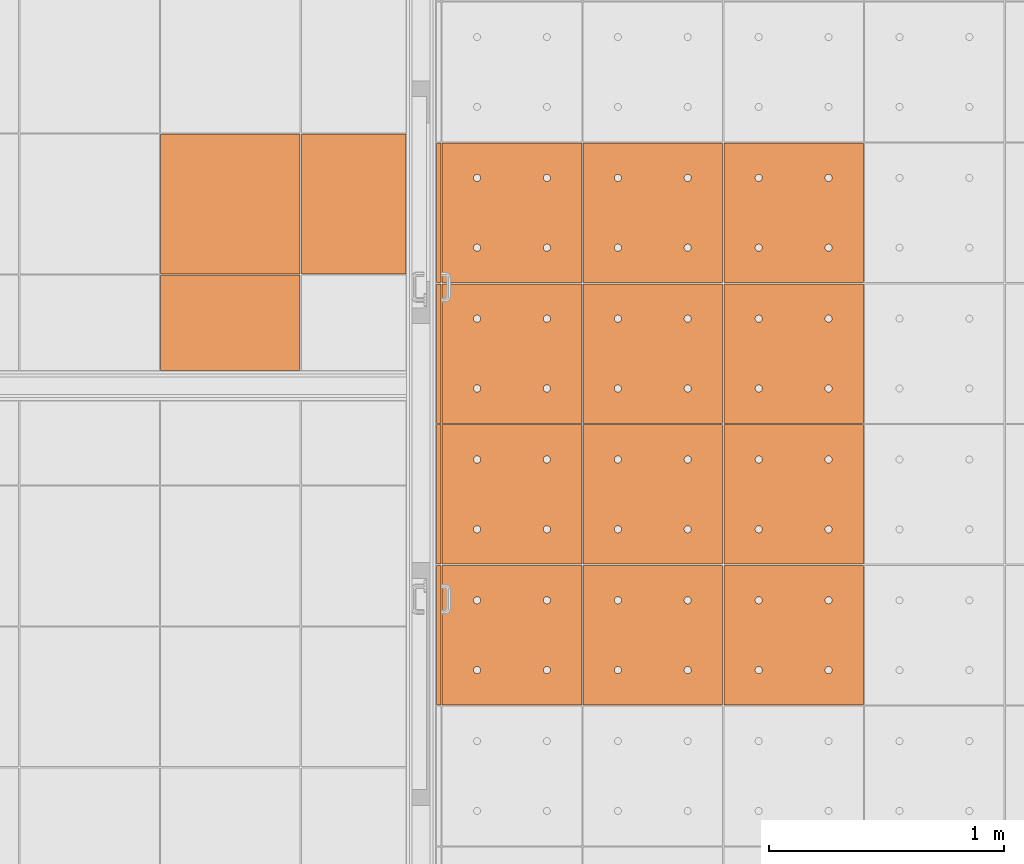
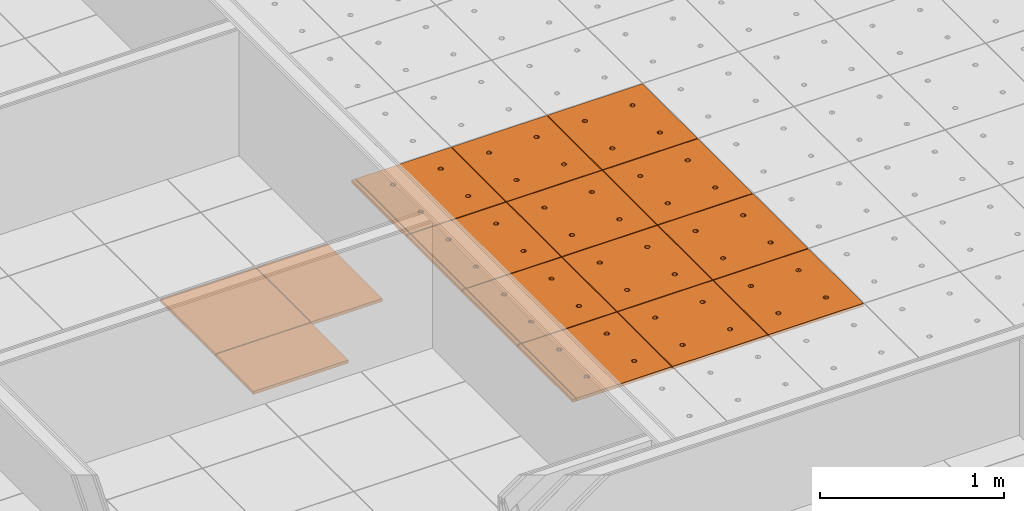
# One storey, part 286 of 338: 19 proxies, 2 elements without a shape of their own.
"""IFC2X3 building model written with IfcOpenShell, lengths in millimetres."""

from ifc_helpers import new_model, entity, si_unit, converted_unit, derived_unit, money_unit, direction, frame, origin_with_axes, place, context, subcontext, project, spatial, faceted_brep, source, transform, mapped, material, type_object, type_shapes, element, aggregate, save


model = new_model("IFC2X3")

# Units and contexts
model_context = context("Model", 3, precision=0.01, world=origin_with_axes(), true_north=direction((0.0, 1.0)))
plan_context = context("Plan", 3, precision=0.01, world=origin_with_axes(), true_north=direction((0.0, 1.0)))
body_context = subcontext(model_context, "Body", "Model", "MODEL_VIEW")
ifc_project = project(units=[si_unit("LENGTHUNIT", "METRE", prefix="MILLI"), si_unit("AREAUNIT", "SQUARE_METRE"), si_unit("VOLUMEUNIT", "CUBIC_METRE"), converted_unit("PLANEANGLEUNIT", "DEGREE", entity("IfcPlaneAngleMeasure", 0.0174532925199), si_unit("PLANEANGLEUNIT", "RADIAN"), dimensions=[0, 0, 0, 0, 0, 0, 0]), money_unit("EUR"), converted_unit("TIMEUNIT", "Year", entity("IfcTimeMeasure", 31556926.0), si_unit("TIMEUNIT", "SECOND"), dimensions=[0, 0, 1, 0, 0, 0, 0]), si_unit("MASSUNIT", "GRAM", prefix="KILO"), si_unit("THERMODYNAMICTEMPERATUREUNIT", "DEGREE_CELSIUS"), si_unit("LUMINOUSINTENSITYUNIT", "LUMEN"), si_unit("ENERGYUNIT", "JOULE", prefix="MEGA"), derived_unit("THERMALCONDUCTANCEUNIT", [(si_unit("POWERUNIT", "WATT"), 1), (si_unit("LENGTHUNIT", "METRE"), -1), (si_unit("THERMODYNAMICTEMPERATUREUNIT", "KELVIN"), -1)]), derived_unit("SPECIFICHEATCAPACITYUNIT", [(si_unit("ENERGYUNIT", "JOULE"), 1), (si_unit("MASSUNIT", "GRAM", prefix="KILO"), -1), (si_unit("THERMODYNAMICTEMPERATUREUNIT", "KELVIN"), -1)]), derived_unit("MASSDENSITYUNIT", [(si_unit("MASSUNIT", "GRAM", prefix="KILO"), 1), (si_unit("VOLUMEUNIT", "CUBIC_METRE"), -1)])], contexts=[model_context, plan_context])

# Site, building, storey
site_placement = place(None, origin_with_axes())
site = spatial("IfcSite", under=ifc_project, at=site_placement, Name="Fortuinstraat Woensdrecht", CompositionType="ELEMENT")
building_placement = place(site_placement, origin_with_axes())
building = spatial("IfcBuilding", under=site, at=building_placement, Name="IKC Fortuna", CompositionType="ELEMENT")
storey_placement = place(building_placement, origin_with_axes())
storey = spatial("IfcBuildingStorey", under=building, at=storey_placement, Name="00 begane grond", CompositionType="ELEMENT", Elevation=0.0)

# Covering, proxies
covering_type = type_object("IfcCoveringType", Name="Curtain Wall Type", PredefinedType="CEILING")
covering_1_placement = place(storey_placement, frame((22594.4446507, 31013.6071773, 2810.0), z_axis=(0.0, 0.0, 1.0), x_axis=(1.0, 0.0, 0.0)))
covering_1 = element("IfcCovering", 1, at=covering_1_placement, inside=storey, type_object=covering_type, Name="45_Plafondafwerking_P02", PredefinedType="CEILING")
ifc_material = material(Name="Gipsplaat")
building_element_proxy_type_1 = type_object("IfcBuildingElementProxyType", Name="Distinct Panel 600 x 600 x 20", PredefinedType="NOTDEFINED")
shared_shape_1 = source(origin_with_axes(), body_context, "Body", "Brep", [
    faceted_brep([(2.5000069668, 2.4999963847, -10.0), (597.499995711, 2.50000275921, -10.0), (597.499995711, 2.50000275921, 10.0), (2.5000069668, 2.4999963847, 10.0), (2.50000214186, 597.499967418, -10.0), (597.499990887, 597.499973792, -10.0), (597.499990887, 597.499973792, 10.0), (2.50000214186, 597.499967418, 10.0)], [[[0, 1, 2, 3]], [[0, 4, 5, 1]], [[1, 5, 6, 2]], [[3, 2, 6, 7]], [[4, 0, 3, 7]], [[5, 4, 7, 6]]]),
])
type_shapes(building_element_proxy_type_1, [shared_shape_1])
proxy_1_placement = place(covering_1_placement, frame((0.0, 506.204592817, 0.0), z_axis=(0.0, 0.0, 1.0), x_axis=(1.0, 0.0, 0.0)))
proxy_1 = element("IfcBuildingElementProxy", 2, at=proxy_1_placement, type_object=building_element_proxy_type_1, material=ifc_material, Name="__Panel-D", context=body_context, shape_type="MappedRepresentation", body=[
    mapped(shared_shape_1, transform((300.0, 300.0, 0.0), x_axis=(-1.0, 0.0, 0.0), y_axis=(0.0, -1.0, 0.0), z_axis=(0.0, 0.0, 1.0))),
])
building_element_proxy_type_2 = type_object("IfcBuildingElementProxyType", Name="Distinct Panel 450 x 600 x 20", PredefinedType="NOTDEFINED")
shared_shape_2 = source(origin_with_axes(), body_context, "Body", "Brep", [
    faceted_brep([(152.589639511, 2.5, -10.0), (597.5, 2.49999999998, -10.0), (597.5, 2.49999999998, 10.0), (152.589639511, 2.5, 10.0), (152.589639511, 597.5, -10.0), (597.5, 597.5, -10.0), (597.5, 597.5, 10.0), (152.589639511, 597.5, 10.0)], [[[0, 1, 2, 3]], [[0, 4, 5, 1]], [[1, 5, 6, 2]], [[3, 2, 6, 7]], [[4, 0, 3, 7]], [[5, 4, 7, 6]]]),
])
type_shapes(building_element_proxy_type_2, [shared_shape_2])
proxy_2_placement = place(covering_1_placement, frame((524.955179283, 506.204592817, 0.0), z_axis=(0.0, 0.0, 1.0), x_axis=(1.0, 0.0, 0.0)))
proxy_2 = element("IfcBuildingElementProxy", 3, at=proxy_2_placement, type_object=building_element_proxy_type_2, material=ifc_material, Name="__Panel-D", context=body_context, shape_type="MappedRepresentation", body=[
    mapped(shared_shape_2, transform((375.044820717, 300.0, 0.0), x_axis=(-1.0, 0.0, 0.0), y_axis=(0.0, -1.0, 0.0), z_axis=(0.0, 0.0, 1.0))),
])
building_element_proxy_type_3 = type_object("IfcBuildingElementProxyType", Name="Distinct Panel 600 x 412 x 20", PredefinedType="NOTDEFINED")
shared_shape_3 = source(origin_with_axes(), body_context, "Body", "Brep", [
    faceted_brep([(2.49999999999, 2.49999924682, -10.0), (597.5, 2.49999924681, -10.0), (597.5, 2.49999924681, 10.0), (2.49999999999, 2.49999924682, 10.0), (2.5, 409.909179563, -10.0), (597.5, 409.909188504, -10.0), (597.5, 409.909188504, 10.0), (2.5, 409.909179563, 10.0)], [[[0, 1, 2, 3]], [[0, 4, 5, 1]], [[1, 5, 6, 2]], [[3, 2, 6, 7]], [[4, 0, 3, 7]], [[5, 4, 7, 6]]]),
])
type_shapes(building_element_proxy_type_3, [shared_shape_3])
proxy_3_placement = place(covering_1_placement, origin_with_axes())
proxy_3 = element("IfcBuildingElementProxy", 4, at=proxy_3_placement, type_object=building_element_proxy_type_3, material=ifc_material, Name="__Panel-D", context=body_context, shape_type="MappedRepresentation", body=[
    mapped(shared_shape_3, transform((300.0, 206.204592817, 0.0), x_axis=(-1.0, 0.0, 0.0), y_axis=(0.0, -1.0, 0.0), z_axis=(0.0, 0.0, 1.0))),
])
aggregate(covering_1, [proxy_3, proxy_2, proxy_1])

covering_2_placement = place(storey_placement, frame((24394.3550152, 31482.3495284, 3210.0), z_axis=(0.0, 0.0, 1.0), x_axis=(1.0, 0.0, 0.0)))
covering_2 = element("IfcCovering", 5, at=covering_2_placement, inside=storey, type_object=covering_type, Name="45_Plafondafwerking_P01", PredefinedType="CEILING")
building_element_proxy_type_4 = type_object("IfcBuildingElementProxyType", Name="Main Panel 600 x 600 x 20", PredefinedType="NOTDEFINED")
shared_shape_4 = source(origin_with_axes(), body_context, "Body", "Brep", [
    faceted_brep([(2.49999999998, 2.49999999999, -10.0), (300.0, 2.49999999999, -10.0), (300.0, 2.49999999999, 10.0), (2.49999999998, 2.49999999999, 10.0), (2.49999999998, 300.0, -10.0), (2.49999999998, 597.5, -10.0), (300.0, 597.5, -10.0), (597.5, 597.5, -10.0), (597.5, 300.0, -10.0), (597.5, 2.49999999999, -10.0), (166.25, 450.06232995, -10.0), (165.79423259, 452.64711538, -10.0), (164.896546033, 455.11348892, -10.0), (163.58421608, 457.38651108, -10.0), (161.897117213, 459.39711721, -10.0), (159.886511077, 461.08421608, -10.0), (157.613488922, 462.39654603, -10.0), (155.147115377, 463.29423259, -10.0), (152.562329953, 463.75, -10.0), (149.937670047, 463.75, -10.0), (147.352884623, 463.29423259, -10.0), (144.886511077, 462.39654603, -10.0), (142.613488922, 461.08421608, -10.0), (140.602882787, 459.39711721, -10.0), (138.91578392, 457.38651108, -10.0), (137.603453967, 455.11348892, -10.0), (136.705767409, 452.64711538, -10.0), (136.25, 450.06232995, -10.0), (136.25, 448.75, -10.0), (136.25, 447.43767005, -10.0), (136.705767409, 444.85288462, -10.0), (137.603453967, 442.38651108, -10.0), (138.91578392, 440.11348892, -10.0), (140.602882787, 438.10288279, -10.0), (142.613488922, 436.41578392, -10.0), (144.886511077, 435.10345397, -10.0), (147.352884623, 434.20576741, -10.0), (149.937670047, 433.75, -10.0), (152.562329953, 433.75, -10.0), (155.147115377, 434.20576741, -10.0), (157.613488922, 435.10345397, -10.0), (159.886511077, 436.41578392, -10.0), (161.897117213, 438.10288279, -10.0), (163.58421608, 440.11348892, -10.0), (164.896546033, 442.38651108, -10.0), (165.79423259, 444.85288462, -10.0), (166.25, 447.43767005, -10.0), (463.75, 450.06232995, -10.0), (463.29423259, 452.64711538, -10.0), (462.396546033, 455.11348892, -10.0), (461.08421608, 457.38651108, -10.0), (459.397117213, 459.39711721, -10.0), (457.386511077, 461.08421608, -10.0), (455.113488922, 462.39654603, -10.0), (452.647115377, 463.29423259, -10.0), (450.062329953, 463.75, -10.0), (447.437670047, 463.75, -10.0), (444.852884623, 463.29423259, -10.0), (442.386511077, 462.39654603, -10.0), (440.113488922, 461.08421608, -10.0), (438.102882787, 459.39711721, -10.0), (436.41578392, 457.38651108, -10.0), (435.103453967, 455.11348892, -10.0), (434.205767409, 452.64711538, -10.0), (433.75, 450.06232995, -10.0), (433.75, 448.75, -10.0), (433.75, 447.43767005, -10.0), (434.205767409, 444.85288462, -10.0), (435.103453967, 442.38651108, -10.0), (436.41578392, 440.11348892, -10.0), (438.102882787, 438.10288279, -10.0), (440.113488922, 436.41578392, -10.0), (442.386511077, 435.10345397, -10.0), (444.852884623, 434.20576741, -10.0), (447.437670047, 433.75, -10.0), (450.062329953, 433.75, -10.0), (452.647115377, 434.20576741, -10.0), (455.113488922, 435.10345397, -10.0), (457.386511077, 436.41578392, -10.0), (459.397117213, 438.10288279, -10.0), (461.08421608, 440.11348892, -10.0), (462.396546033, 442.38651108, -10.0), (463.29423259, 444.85288462, -10.0), (463.75, 447.43767005, -10.0), (463.75, 152.56232995, -10.0), (463.29423259, 155.14711538, -10.0), (462.396546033, 157.61348892, -10.0), (461.08421608, 159.88651108, -10.0), (459.397117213, 161.89711721, -10.0), (457.386511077, 163.58421608, -10.0), (455.113488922, 164.89654603, -10.0), (452.647115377, 165.79423259, -10.0), (450.062329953, 166.25, -10.0), (447.437670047, 166.25, -10.0), (444.852884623, 165.79423259, -10.0), (442.386511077, 164.89654603, -10.0), (440.113488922, 163.58421608, -10.0), (438.102882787, 161.89711721, -10.0), (436.41578392, 159.88651108, -10.0), (435.103453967, 157.61348892, -10.0), (434.205767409, 155.14711538, -10.0), (433.75, 152.56232995, -10.0), (433.75, 151.25, -10.0), (433.75, 149.93767005, -10.0), (434.205767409, 147.35288462, -10.0), (435.103453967, 144.88651108, -10.0), (436.41578392, 142.61348892, -10.0), (438.102882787, 140.60288279, -10.0), (440.113488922, 138.91578392, -10.0), (442.386511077, 137.60345397, -10.0), (444.852884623, 136.70576741, -10.0), (447.437670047, 136.25, -10.0), (450.062329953, 136.25, -10.0), (452.647115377, 136.70576741, -10.0), (455.113488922, 137.60345397, -10.0), (457.386511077, 138.91578392, -10.0), (459.397117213, 140.60288279, -10.0), (461.08421608, 142.61348892, -10.0), (462.396546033, 144.88651108, -10.0), (463.29423259, 147.35288462, -10.0), (463.75, 149.93767005, -10.0), (166.25, 152.56232995, -10.0), (165.79423259, 155.14711538, -10.0), (164.896546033, 157.61348892, -10.0), (163.58421608, 159.88651108, -10.0), (161.897117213, 161.89711721, -10.0), (159.886511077, 163.58421608, -10.0), (157.613488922, 164.89654603, -10.0), (155.147115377, 165.79423259, -10.0), (152.562329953, 166.25, -10.0), (149.937670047, 166.25, -10.0), (147.352884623, 165.79423259, -10.0), (144.886511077, 164.89654603, -10.0), (142.613488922, 163.58421608, -10.0), (140.602882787, 161.89711721, -10.0), (138.91578392, 159.88651108, -10.0), (137.603453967, 157.61348892, -10.0), (136.705767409, 155.14711538, -10.0), (136.25, 152.56232995, -10.0), (136.25, 151.25, -10.0), (136.25, 149.93767005, -10.0), (136.705767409, 147.35288462, -10.0), (137.603453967, 144.88651108, -10.0), (138.91578392, 142.61348892, -10.0), (140.602882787, 140.60288279, -10.0), (142.613488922, 138.91578392, -10.0), (144.886511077, 137.60345397, -10.0), (147.352884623, 136.70576741, -10.0), (149.937670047, 136.25, -10.0), (152.562329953, 136.25, -10.0), (155.147115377, 136.70576741, -10.0), (157.613488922, 137.60345397, -10.0), (159.886511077, 138.91578392, -10.0), (161.897117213, 140.60288279, -10.0), (163.58421608, 142.61348892, -10.0), (164.896546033, 144.88651108, -10.0), (165.79423259, 147.35288462, -10.0), (166.25, 149.93767005, -10.0), (597.5, 2.49999999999, 10.0), (597.5, 300.0, 10.0), (597.5, 597.5, 10.0), (300.0, 597.5, 10.0), (2.49999999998, 597.5, 10.0), (2.49999999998, 300.0, 10.0), (166.25, 450.06232995, 10.0), (166.25, 447.43767005, 10.0), (165.79423259, 444.85288462, 10.0), (164.896546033, 442.38651108, 10.0), (163.58421608, 440.11348892, 10.0), (161.897117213, 438.10288279, 10.0), (159.886511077, 436.41578392, 10.0), (157.613488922, 435.10345397, 10.0), (155.147115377, 434.20576741, 10.0), (152.562329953, 433.75, 10.0), (149.937670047, 433.75, 10.0), (147.352884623, 434.20576741, 10.0), (144.886511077, 435.10345397, 10.0), (142.613488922, 436.41578392, 10.0), (140.602882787, 438.10288279, 10.0), (138.91578392, 440.11348892, 10.0), (137.603453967, 442.38651108, 10.0), (136.705767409, 444.85288462, 10.0), (136.25, 447.43767005, 10.0), (136.25, 448.75, 10.0), (136.25, 450.06232995, 10.0), (136.705767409, 452.64711538, 10.0), (137.603453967, 455.11348892, 10.0), (138.91578392, 457.38651108, 10.0), (140.602882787, 459.39711721, 10.0), (142.613488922, 461.08421608, 10.0), (144.886511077, 462.39654603, 10.0), (147.352884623, 463.29423259, 10.0), (149.937670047, 463.75, 10.0), (152.562329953, 463.75, 10.0), (155.147115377, 463.29423259, 10.0), (157.613488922, 462.39654603, 10.0), (159.886511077, 461.08421608, 10.0), (161.897117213, 459.39711721, 10.0), (163.58421608, 457.38651108, 10.0), (164.896546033, 455.11348892, 10.0), (165.79423259, 452.64711538, 10.0), (463.75, 450.06232995, 10.0), (463.75, 447.43767005, 10.0), (463.29423259, 444.85288462, 10.0), (462.396546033, 442.38651108, 10.0), (461.08421608, 440.11348892, 10.0), (459.397117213, 438.10288279, 10.0), (457.386511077, 436.41578392, 10.0), (455.113488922, 435.10345397, 10.0), (452.647115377, 434.20576741, 10.0), (450.062329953, 433.75, 10.0), (447.437670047, 433.75, 10.0), (444.852884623, 434.20576741, 10.0), (442.386511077, 435.10345397, 10.0), (440.113488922, 436.41578392, 10.0), (438.102882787, 438.10288279, 10.0), (436.41578392, 440.11348892, 10.0), (435.103453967, 442.38651108, 10.0), (434.205767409, 444.85288462, 10.0), (433.75, 447.43767005, 10.0), (433.75, 448.75, 10.0), (433.75, 450.06232995, 10.0), (434.205767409, 452.64711538, 10.0), (435.103453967, 455.11348892, 10.0), (436.41578392, 457.38651108, 10.0), (438.102882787, 459.39711721, 10.0), (440.113488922, 461.08421608, 10.0), (442.386511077, 462.39654603, 10.0), (444.852884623, 463.29423259, 10.0), (447.437670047, 463.75, 10.0), (450.062329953, 463.75, 10.0), (452.647115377, 463.29423259, 10.0), (455.113488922, 462.39654603, 10.0), (457.386511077, 461.08421608, 10.0), (459.397117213, 459.39711721, 10.0), (461.08421608, 457.38651108, 10.0), (462.396546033, 455.11348892, 10.0), (463.29423259, 452.64711538, 10.0), (463.75, 152.56232995, 10.0), (463.75, 149.93767005, 10.0), (463.29423259, 147.35288462, 10.0), (462.396546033, 144.88651108, 10.0), (461.08421608, 142.61348892, 10.0), (459.397117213, 140.60288279, 10.0), (457.386511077, 138.91578392, 10.0), (455.113488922, 137.60345397, 10.0), (452.647115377, 136.70576741, 10.0), (450.062329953, 136.25, 10.0), (447.437670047, 136.25, 10.0), (444.852884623, 136.70576741, 10.0), (442.386511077, 137.60345397, 10.0), (440.113488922, 138.91578392, 10.0), (438.102882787, 140.60288279, 10.0), (436.41578392, 142.61348892, 10.0), (435.103453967, 144.88651108, 10.0), (434.205767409, 147.35288462, 10.0), (433.75, 149.93767005, 10.0), (433.75, 151.25, 10.0), (433.75, 152.56232995, 10.0), (434.205767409, 155.14711538, 10.0), (435.103453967, 157.61348892, 10.0), (436.41578392, 159.88651108, 10.0), (438.102882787, 161.89711721, 10.0), (440.113488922, 163.58421608, 10.0), (442.386511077, 164.89654603, 10.0), (444.852884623, 165.79423259, 10.0), (447.437670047, 166.25, 10.0), (450.062329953, 166.25, 10.0), (452.647115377, 165.79423259, 10.0), (455.113488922, 164.89654603, 10.0), (457.386511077, 163.58421608, 10.0), (459.397117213, 161.89711721, 10.0), (461.08421608, 159.88651108, 10.0), (462.396546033, 157.61348892, 10.0), (463.29423259, 155.14711538, 10.0), (166.25, 152.56232995, 10.0), (166.25, 149.93767005, 10.0), (165.79423259, 147.35288462, 10.0), (164.896546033, 144.88651108, 10.0), (163.58421608, 142.61348892, 10.0), (161.897117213, 140.60288279, 10.0), (159.886511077, 138.91578392, 10.0), (157.613488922, 137.60345397, 10.0), (155.147115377, 136.70576741, 10.0), (152.562329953, 136.25, 10.0), (149.937670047, 136.25, 10.0), (147.352884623, 136.70576741, 10.0), (144.886511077, 137.60345397, 10.0), (142.613488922, 138.91578392, 10.0), (140.602882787, 140.60288279, 10.0), (138.91578392, 142.61348892, 10.0), (137.603453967, 144.88651108, 10.0), (136.705767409, 147.35288462, 10.0), (136.25, 149.93767005, 10.0), (136.25, 151.25, 10.0), (136.25, 152.56232995, 10.0), (136.705767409, 155.14711538, 10.0), (137.603453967, 157.61348892, 10.0), (138.91578392, 159.88651108, 10.0), (140.602882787, 161.89711721, 10.0), (142.613488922, 163.58421608, 10.0), (144.886511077, 164.89654603, 10.0), (147.352884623, 165.79423259, 10.0), (149.937670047, 166.25, 10.0), (152.562329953, 166.25, 10.0), (155.147115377, 165.79423259, 10.0), (157.613488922, 164.89654603, 10.0), (159.886511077, 163.58421608, 10.0), (161.897117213, 161.89711721, 10.0), (163.58421608, 159.88651108, 10.0), (164.896546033, 157.61348892, 10.0), (165.79423259, 155.14711538, 10.0)], [[[0, 1, 2, 3]], [[0, 4, 5, 6, 7, 8, 9, 1], [10, 11, 12, 13, 14, 15, 16, 17, 18, 19, 20, 21, 22, 23, 24, 25, 26, 27, 28, 29, 30, 31, 32, 33, 34, 35, 36, 37, 38, 39, 40, 41, 42, 43, 44, 45, 46], [47, 48, 49, 50, 51, 52, 53, 54, 55, 56, 57, 58, 59, 60, 61, 62, 63, 64, 65, 66, 67, 68, 69, 70, 71, 72, 73, 74, 75, 76, 77, 78, 79, 80, 81, 82, 83], [84, 85, 86, 87, 88, 89, 90, 91, 92, 93, 94, 95, 96, 97, 98, 99, 100, 101, 102, 103, 104, 105, 106, 107, 108, 109, 110, 111, 112, 113, 114, 115, 116, 117, 118, 119, 120], [121, 122, 123, 124, 125, 126, 127, 128, 129, 130, 131, 132, 133, 134, 135, 136, 137, 138, 139, 140, 141, 142, 143, 144, 145, 146, 147, 148, 149, 150, 151, 152, 153, 154, 155, 156, 157]], [[1, 9, 158, 2]], [[3, 2, 158, 159, 160, 161, 162, 163], [164, 165, 166, 167, 168, 169, 170, 171, 172, 173, 174, 175, 176, 177, 178, 179, 180, 181, 182, 183, 184, 185, 186, 187, 188, 189, 190, 191, 192, 193, 194, 195, 196, 197, 198, 199, 200], [201, 202, 203, 204, 205, 206, 207, 208, 209, 210, 211, 212, 213, 214, 215, 216, 217, 218, 219, 220, 221, 222, 223, 224, 225, 226, 227, 228, 229, 230, 231, 232, 233, 234, 235, 236, 237], [238, 239, 240, 241, 242, 243, 244, 245, 246, 247, 248, 249, 250, 251, 252, 253, 254, 255, 256, 257, 258, 259, 260, 261, 262, 263, 264, 265, 266, 267, 268, 269, 270, 271, 272, 273, 274], [275, 276, 277, 278, 279, 280, 281, 282, 283, 284, 285, 286, 287, 288, 289, 290, 291, 292, 293, 294, 295, 296, 297, 298, 299, 300, 301, 302, 303, 304, 305, 306, 307, 308, 309, 310, 311]], [[4, 0, 3, 163]], [[5, 4, 163, 162]], [[6, 5, 162, 161]], [[7, 6, 161, 160]], [[8, 7, 160, 159]], [[9, 8, 159, 158]], [[11, 10, 164, 200]], [[12, 11, 200, 199]], [[13, 12, 199, 198]], [[14, 13, 198, 197]], [[15, 14, 197, 196]], [[16, 15, 196, 195]], [[17, 16, 195, 194]], [[18, 17, 194, 193]], [[19, 18, 193, 192]], [[20, 19, 192, 191]], [[21, 20, 191, 190]], [[22, 21, 190, 189]], [[23, 22, 189, 188]], [[24, 23, 188, 187]], [[25, 24, 187, 186]], [[26, 25, 186, 185]], [[27, 26, 185, 184]], [[28, 27, 184, 183]], [[29, 28, 183, 182]], [[30, 29, 182, 181]], [[31, 30, 181, 180]], [[32, 31, 180, 179]], [[33, 32, 179, 178]], [[34, 33, 178, 177]], [[35, 34, 177, 176]], [[36, 35, 176, 175]], [[37, 36, 175, 174]], [[38, 37, 174, 173]], [[39, 38, 173, 172]], [[40, 39, 172, 171]], [[41, 40, 171, 170]], [[42, 41, 170, 169]], [[43, 42, 169, 168]], [[44, 43, 168, 167]], [[45, 44, 167, 166]], [[46, 45, 166, 165]], [[10, 46, 165, 164]], [[48, 47, 201, 237]], [[49, 48, 237, 236]], [[50, 49, 236, 235]], [[51, 50, 235, 234]], [[52, 51, 234, 233]], [[53, 52, 233, 232]], [[54, 53, 232, 231]], [[55, 54, 231, 230]], [[56, 55, 230, 229]], [[57, 56, 229, 228]], [[58, 57, 228, 227]], [[59, 58, 227, 226]], [[60, 59, 226, 225]], [[61, 60, 225, 224]], [[62, 61, 224, 223]], [[63, 62, 223, 222]], [[64, 63, 222, 221]], [[65, 64, 221, 220]], [[66, 65, 220, 219]], [[67, 66, 219, 218]], [[68, 67, 218, 217]], [[69, 68, 217, 216]], [[70, 69, 216, 215]], [[71, 70, 215, 214]], [[72, 71, 214, 213]], [[73, 72, 213, 212]], [[74, 73, 212, 211]], [[75, 74, 211, 210]], [[76, 75, 210, 209]], [[77, 76, 209, 208]], [[78, 77, 208, 207]], [[79, 78, 207, 206]], [[80, 79, 206, 205]], [[81, 80, 205, 204]], [[82, 81, 204, 203]], [[83, 82, 203, 202]], [[47, 83, 202, 201]], [[85, 84, 238, 274]], [[86, 85, 274, 273]], [[87, 86, 273, 272]], [[88, 87, 272, 271]], [[89, 88, 271, 270]], [[90, 89, 270, 269]], [[91, 90, 269, 268]], [[92, 91, 268, 267]], [[93, 92, 267, 266]], [[94, 93, 266, 265]], [[95, 94, 265, 264]], [[96, 95, 264, 263]], [[97, 96, 263, 262]], [[98, 97, 262, 261]], [[99, 98, 261, 260]], [[100, 99, 260, 259]], [[101, 100, 259, 258]], [[102, 101, 258, 257]], [[103, 102, 257, 256]], [[104, 103, 256, 255]], [[105, 104, 255, 254]], [[106, 105, 254, 253]], [[107, 106, 253, 252]], [[108, 107, 252, 251]], [[109, 108, 251, 250]], [[110, 109, 250, 249]], [[111, 110, 249, 248]], [[112, 111, 248, 247]], [[113, 112, 247, 246]], [[114, 113, 246, 245]], [[115, 114, 245, 244]], [[116, 115, 244, 243]], [[117, 116, 243, 242]], [[118, 117, 242, 241]], [[119, 118, 241, 240]], [[120, 119, 240, 239]], [[84, 120, 239, 238]], [[122, 121, 275, 311]], [[123, 122, 311, 310]], [[124, 123, 310, 309]], [[125, 124, 309, 308]], [[126, 125, 308, 307]], [[127, 126, 307, 306]], [[128, 127, 306, 305]], [[129, 128, 305, 304]], [[130, 129, 304, 303]], [[131, 130, 303, 302]], [[132, 131, 302, 301]], [[133, 132, 301, 300]], [[134, 133, 300, 299]], [[135, 134, 299, 298]], [[136, 135, 298, 297]], [[137, 136, 297, 296]], [[138, 137, 296, 295]], [[139, 138, 295, 294]], [[140, 139, 294, 293]], [[141, 140, 293, 292]], [[142, 141, 292, 291]], [[143, 142, 291, 290]], [[144, 143, 290, 289]], [[145, 144, 289, 288]], [[146, 145, 288, 287]], [[147, 146, 287, 286]], [[148, 147, 286, 285]], [[149, 148, 285, 284]], [[150, 149, 284, 283]], [[151, 150, 283, 282]], [[152, 151, 282, 281]], [[153, 152, 281, 280]], [[154, 153, 280, 279]], [[155, 154, 279, 278]], [[156, 155, 278, 277]], [[157, 156, 277, 276]], [[121, 157, 276, 275]]]),
])
type_shapes(building_element_proxy_type_4, [shared_shape_4])
proxy_4_placement = place(covering_2_placement, frame((0.0, 0.0, 1.46105350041e-10), z_axis=(0.0, 0.0, 1.0), x_axis=(1.0, 0.0, 0.0)))
proxy_4 = element("IfcBuildingElementProxy", 6, at=proxy_4_placement, type_object=building_element_proxy_type_4, material=ifc_material, Name="__600x600 Rockfon Krios", context=body_context, shape_type="MappedRepresentation", body=[
    mapped(shared_shape_4, transform((300.0, 300.0, 0.0), x_axis=(-1.0, 0.0, 0.0), y_axis=(0.0, -1.0, 0.0), z_axis=(0.0, 0.0, 1.0))),
])
proxy_5_placement = place(covering_2_placement, frame((600.0, -1800.0, 1.26121335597e-10), z_axis=(0.0, 0.0, 1.0), x_axis=(1.0, 0.0, 0.0)))
proxy_5 = element("IfcBuildingElementProxy", 7, at=proxy_5_placement, type_object=building_element_proxy_type_4, material=ifc_material, Name="__600x637 Rockfon Krios", context=body_context, shape_type="MappedRepresentation", body=[
    mapped(shared_shape_4, transform((300.0, 300.0, 0.0), x_axis=(-1.0, 0.0, 0.0), y_axis=(0.0, -1.0, 0.0), z_axis=(0.0, 0.0, 1.0))),
])
proxy_6_placement = place(covering_2_placement, frame((600.0, -1200.0, 1.26121335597e-10), z_axis=(0.0, 0.0, 1.0), x_axis=(1.0, 0.0, 0.0)))
proxy_6 = element("IfcBuildingElementProxy", 8, at=proxy_6_placement, type_object=building_element_proxy_type_4, material=ifc_material, Name="__600x641 Rockfon Krios", context=body_context, shape_type="MappedRepresentation", body=[
    mapped(shared_shape_4, transform((300.0, 300.0, 0.0), x_axis=(-1.0, 0.0, 0.0), y_axis=(0.0, -1.0, 0.0), z_axis=(0.0, 0.0, 1.0))),
])
proxy_7_placement = place(covering_2_placement, frame((600.0, -600.0, 1.26121335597e-10), z_axis=(0.0, 0.0, 1.0), x_axis=(1.0, 0.0, 0.0)))
proxy_7 = element("IfcBuildingElementProxy", 9, at=proxy_7_placement, type_object=building_element_proxy_type_4, material=ifc_material, Name="__600x643 Rockfon Krios", context=body_context, shape_type="MappedRepresentation", body=[
    mapped(shared_shape_4, transform((300.0, 300.0, 0.0), x_axis=(-1.0, 0.0, 0.0), y_axis=(0.0, -1.0, 0.0), z_axis=(0.0, 0.0, 1.0))),
])
proxy_8_placement = place(covering_2_placement, frame((-600.0, 0.0, 1.65645275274e-10), z_axis=(0.0, 0.0, 1.0), x_axis=(1.0, 0.0, 0.0)))
proxy_8 = element("IfcBuildingElementProxy", 10, at=proxy_8_placement, type_object=building_element_proxy_type_4, material=ifc_material, Name="__600x645 Rockfon Krios", context=body_context, shape_type="MappedRepresentation", body=[
    mapped(shared_shape_4, transform((300.0, 300.0, 0.0), x_axis=(-1.0, 0.0, 0.0), y_axis=(0.0, -1.0, 0.0), z_axis=(0.0, 0.0, 1.0))),
])
proxy_9_placement = place(covering_2_placement, frame((600.0, 0.0, 1.26121335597e-10), z_axis=(0.0, 0.0, 1.0), x_axis=(1.0, 0.0, 0.0)))
proxy_9 = element("IfcBuildingElementProxy", 11, at=proxy_9_placement, type_object=building_element_proxy_type_4, material=ifc_material, Name="__600x646 Rockfon Krios", context=body_context, shape_type="MappedRepresentation", body=[
    mapped(shared_shape_4, transform((300.0, 300.0, 0.0), x_axis=(-1.0, 0.0, 0.0), y_axis=(0.0, -1.0, 0.0), z_axis=(0.0, 0.0, 1.0))),
])
proxy_10_placement = place(covering_2_placement, frame((-600.0, -1200.0, 1.65645275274e-10), z_axis=(0.0, 0.0, 1.0), x_axis=(1.0, 0.0, 0.0)))
proxy_10 = element("IfcBuildingElementProxy", 12, at=proxy_10_placement, type_object=building_element_proxy_type_4, material=ifc_material, Name="__600x650 Rockfon Krios", context=body_context, shape_type="MappedRepresentation", body=[
    mapped(shared_shape_4, transform((300.0, 300.0, 0.0), x_axis=(-1.0, 0.0, 0.0), y_axis=(0.0, -1.0, 0.0), z_axis=(0.0, 0.0, 1.0))),
])
proxy_11_placement = place(covering_2_placement, frame((-600.0, -600.0, 1.65645275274e-10), z_axis=(0.0, 0.0, 1.0), x_axis=(1.0, 0.0, 0.0)))
proxy_11 = element("IfcBuildingElementProxy", 13, at=proxy_11_placement, type_object=building_element_proxy_type_4, material=ifc_material, Name="__600x653 Rockfon Krios", context=body_context, shape_type="MappedRepresentation", body=[
    mapped(shared_shape_4, transform((300.0, 300.0, 0.0), x_axis=(-1.0, 0.0, 0.0), y_axis=(0.0, -1.0, 0.0), z_axis=(0.0, 0.0, 1.0))),
])
proxy_12_placement = place(covering_2_placement, frame((-600.0, -1800.0, 1.65645275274e-10), z_axis=(0.0, 0.0, 1.0), x_axis=(1.0, 0.0, 0.0)))
proxy_12 = element("IfcBuildingElementProxy", 14, at=proxy_12_placement, type_object=building_element_proxy_type_4, material=ifc_material, Name="__600x654 Rockfon Krios", context=body_context, shape_type="MappedRepresentation", body=[
    mapped(shared_shape_4, transform((300.0, 300.0, 0.0), x_axis=(-1.0, 0.0, 0.0), y_axis=(0.0, -1.0, 0.0), z_axis=(0.0, 0.0, 1.0))),
])
proxy_13_placement = place(covering_2_placement, frame((0.0, -1800.0, 1.46105350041e-10), z_axis=(0.0, 0.0, 1.0), x_axis=(1.0, 0.0, 0.0)))
proxy_13 = element("IfcBuildingElementProxy", 15, at=proxy_13_placement, type_object=building_element_proxy_type_4, material=ifc_material, Name="__600x669 Rockfon Krios", context=body_context, shape_type="MappedRepresentation", body=[
    mapped(shared_shape_4, transform((300.0, 300.0, 0.0), x_axis=(-1.0, 0.0, 0.0), y_axis=(0.0, -1.0, 0.0), z_axis=(0.0, 0.0, 1.0))),
])
proxy_14_placement = place(covering_2_placement, frame((0.0, -1200.0, 1.46105350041e-10), z_axis=(0.0, 0.0, 1.0), x_axis=(1.0, 0.0, 0.0)))
proxy_14 = element("IfcBuildingElementProxy", 16, at=proxy_14_placement, type_object=building_element_proxy_type_4, material=ifc_material, Name="__600x670 Rockfon Krios", context=body_context, shape_type="MappedRepresentation", body=[
    mapped(shared_shape_4, transform((300.0, 300.0, 0.0), x_axis=(-1.0, 0.0, 0.0), y_axis=(0.0, -1.0, 0.0), z_axis=(0.0, 0.0, 1.0))),
])
proxy_15_placement = place(covering_2_placement, frame((0.0, -600.0, 1.46105350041e-10), z_axis=(0.0, 0.0, 1.0), x_axis=(1.0, 0.0, 0.0)))
proxy_15 = element("IfcBuildingElementProxy", 17, at=proxy_15_placement, type_object=building_element_proxy_type_4, material=ifc_material, Name="__600x671 Rockfon Krios", context=body_context, shape_type="MappedRepresentation", body=[
    mapped(shared_shape_4, transform((300.0, 300.0, 0.0), x_axis=(-1.0, 0.0, 0.0), y_axis=(0.0, -1.0, 0.0), z_axis=(0.0, 0.0, 1.0))),
])
building_element_proxy_type_5 = type_object("IfcBuildingElementProxyType", Name="25 x 600 x 20", PredefinedType="NOTDEFINED")
shared_shape_5 = source(origin_with_axes(), body_context, "Body", "Brep", [
    faceted_brep([(2.49999895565, 2.5, -10.0), (22.5000615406, 2.5, -10.0), (22.5000615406, 2.5, 10.0), (2.49999895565, 2.5, 10.0), (2.49999895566, 597.5, -10.0), (22.5000615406, 597.5, -10.0), (22.5000615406, 597.5, 10.0), (2.49999895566, 597.5, 10.0)], [[[0, 1, 2, 3]], [[0, 4, 5, 1]], [[1, 5, 6, 2]], [[3, 2, 6, 7]], [[4, 0, 3, 7]], [[5, 4, 7, 6]]]),
])
type_shapes(building_element_proxy_type_5, [shared_shape_5])
proxy_16_placement = place(covering_2_placement, frame((-912.50003077, -600.0, 1.75859327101e-10), z_axis=(0.0, 0.0, 1.0), x_axis=(1.0, 0.0, 0.0)))
proxy_16 = element("IfcBuildingElementProxy", 18, at=proxy_16_placement, type_object=building_element_proxy_type_5, material=ifc_material, Name="__600x708 Rockfon Krios", context=body_context, shape_type="MappedRepresentation", body=[
    mapped(shared_shape_5, transform((12.5000307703, 300.0, 0.0), x_axis=(-1.0, 0.0, 0.0), y_axis=(0.0, -1.0, 0.0), z_axis=(0.0, 0.0, 1.0))),
])
proxy_17_placement = place(covering_2_placement, frame((-912.50003077, -1200.0, 1.75859327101e-10), z_axis=(0.0, 0.0, 1.0), x_axis=(1.0, 0.0, 0.0)))
proxy_17 = element("IfcBuildingElementProxy", 19, at=proxy_17_placement, type_object=building_element_proxy_type_5, material=ifc_material, Name="__600x713 Rockfon Krios", context=body_context, shape_type="MappedRepresentation", body=[
    mapped(shared_shape_5, transform((12.5000307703, 300.0, 0.0), x_axis=(-1.0, 0.0, 0.0), y_axis=(0.0, -1.0, 0.0), z_axis=(0.0, 0.0, 1.0))),
])
proxy_18_placement = place(covering_2_placement, frame((-912.50003077, -1800.0, 1.75859327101e-10), z_axis=(0.0, 0.0, 1.0), x_axis=(1.0, 0.0, 0.0)))
proxy_18 = element("IfcBuildingElementProxy", 20, at=proxy_18_placement, type_object=building_element_proxy_type_5, material=ifc_material, Name="__600x715 Rockfon Krios", context=body_context, shape_type="MappedRepresentation", body=[
    mapped(shared_shape_5, transform((12.5000307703, 300.0, 0.0), x_axis=(-1.0, 0.0, 0.0), y_axis=(0.0, -1.0, 0.0), z_axis=(0.0, 0.0, 1.0))),
])
proxy_19_placement = place(covering_2_placement, frame((-912.50003077, 0.0, 1.75859327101e-10), z_axis=(0.0, 0.0, 1.0), x_axis=(1.0, 0.0, 0.0)))
proxy_19 = element("IfcBuildingElementProxy", 21, at=proxy_19_placement, type_object=building_element_proxy_type_5, material=ifc_material, Name="__600x717 Rockfon Krios", context=body_context, shape_type="MappedRepresentation", body=[
    mapped(shared_shape_5, transform((12.5000307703, 300.0, 0.0), x_axis=(-1.0, 0.0, 0.0), y_axis=(0.0, -1.0, 0.0), z_axis=(0.0, 0.0, 1.0))),
])
aggregate(covering_2, [proxy_4, proxy_5, proxy_6, proxy_7, proxy_8, proxy_9, proxy_10, proxy_11, proxy_12, proxy_13, proxy_14, proxy_15, proxy_16, proxy_17, proxy_18, proxy_19])

save(model, "model.ifc")
